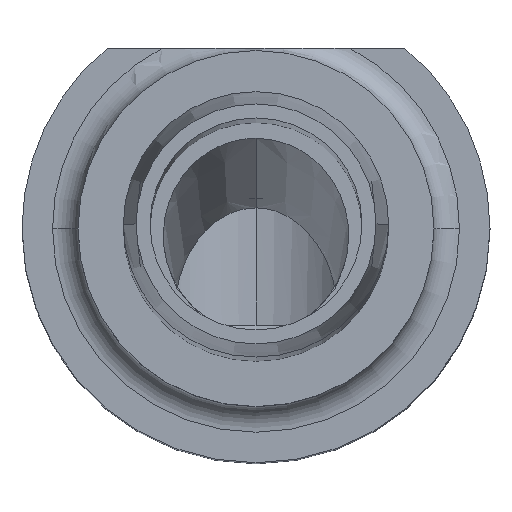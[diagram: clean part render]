
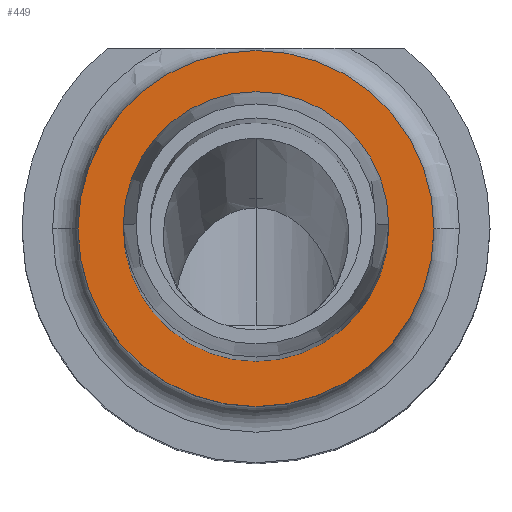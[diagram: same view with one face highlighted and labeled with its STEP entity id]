
A CAD part, top view. The second image highlights one B-rep face of the part: STEP entity #449.
In plain terms, the highlighted planar face has unit normal (0, 0, 1).
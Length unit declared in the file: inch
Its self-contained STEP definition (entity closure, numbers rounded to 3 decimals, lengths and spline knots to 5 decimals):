
#67 = ORIENTED_EDGE ( 'NONE', *, *, #957, .F. ) ;
#167 = DIRECTION ( 'NONE',  ( 1., 0., 0. ) ) ;
#173 = FACE_OUTER_BOUND ( 'NONE', #1176, .T. ) ;
#189 = ORIENTED_EDGE ( 'NONE', *, *, #1140, .T. ) ;
#207 = CARTESIAN_POINT ( 'NONE',  ( -0.1565, 0., -3.124 ) ) ;
#256 = AXIS2_PLACEMENT_3D ( 'NONE', #275, #1117, #831 ) ;
#258 = EDGE_LOOP ( 'NONE', ( #189, #423 ) ) ;
#275 = CARTESIAN_POINT ( 'NONE',  ( 0., 0., -3.124 ) ) ;
#286 = CARTESIAN_POINT ( 'NONE',  ( 0.21, 0., -3.124 ) ) ;
#290 = CIRCLE ( 'NONE', #256, 0.1565 ) ;
#321 = DIRECTION ( 'NONE',  ( 0., 0., -1. ) ) ;
#349 = CIRCLE ( 'NONE', #1066, 0.21 ) ;
#363 = VERTEX_POINT ( 'NONE', #387 ) ;
#387 = CARTESIAN_POINT ( 'NONE',  ( -0.21, 0., -3.124 ) ) ;
#389 = AXIS2_PLACEMENT_3D ( 'NONE', #971, #321, #724 ) ;
#403 = DIRECTION ( 'NONE',  ( 0., 0., -1. ) ) ;
#408 = DIRECTION ( 'NONE',  ( -1., 0., 0. ) ) ;
#411 = CARTESIAN_POINT ( 'NONE',  ( 0., 0., -3.124 ) ) ;
#423 = ORIENTED_EDGE ( 'NONE', *, *, #1214, .T. ) ;
#449 = ADVANCED_FACE ( 'NONE', ( #888, #173 ), #973, .T. ) ;
#572 = ORIENTED_EDGE ( 'NONE', *, *, #811, .F. ) ;
#594 = VERTEX_POINT ( 'NONE', #1118 ) ;
#600 = DIRECTION ( 'NONE',  ( 0., 0., -1. ) ) ;
#602 = CIRCLE ( 'NONE', #1145, 0.1565 ) ;
#685 = VERTEX_POINT ( 'NONE', #286 ) ;
#713 = AXIS2_PLACEMENT_3D ( 'NONE', #207, #851, #167 ) ;
#724 = DIRECTION ( 'NONE',  ( -1., 0., 0. ) ) ;
#811 = EDGE_CURVE ( 'NONE', #363, #685, #349, .T. ) ;
#813 = CIRCLE ( 'NONE', #389, 0.21 ) ;
#831 = DIRECTION ( 'NONE',  ( -1., 0., 0. ) ) ;
#851 = DIRECTION ( 'NONE',  ( 0., 0., 1. ) ) ;
#888 = FACE_BOUND ( 'NONE', #258, .T. ) ;
#957 = EDGE_CURVE ( 'NONE', #685, #363, #813, .T. ) ;
#971 = CARTESIAN_POINT ( 'NONE',  ( 0., 0., -3.124 ) ) ;
#973 = PLANE ( 'NONE',  #713 ) ;
#1023 = CARTESIAN_POINT ( 'NONE',  ( 0.1565, 0., -3.124 ) ) ;
#1062 = DIRECTION ( 'NONE',  ( -1., 0., 0. ) ) ;
#1066 = AXIS2_PLACEMENT_3D ( 'NONE', #411, #403, #1062 ) ;
#1074 = CARTESIAN_POINT ( 'NONE',  ( 0., 0., -3.124 ) ) ;
#1117 = DIRECTION ( 'NONE',  ( 0., 0., -1. ) ) ;
#1118 = CARTESIAN_POINT ( 'NONE',  ( -0.1565, 0., -3.124 ) ) ;
#1140 = EDGE_CURVE ( 'NONE', #594, #1142, #290, .T. ) ;
#1142 = VERTEX_POINT ( 'NONE', #1023 ) ;
#1145 = AXIS2_PLACEMENT_3D ( 'NONE', #1074, #600, #408 ) ;
#1176 = EDGE_LOOP ( 'NONE', ( #572, #67 ) ) ;
#1214 = EDGE_CURVE ( 'NONE', #1142, #594, #602, .T. ) ;
